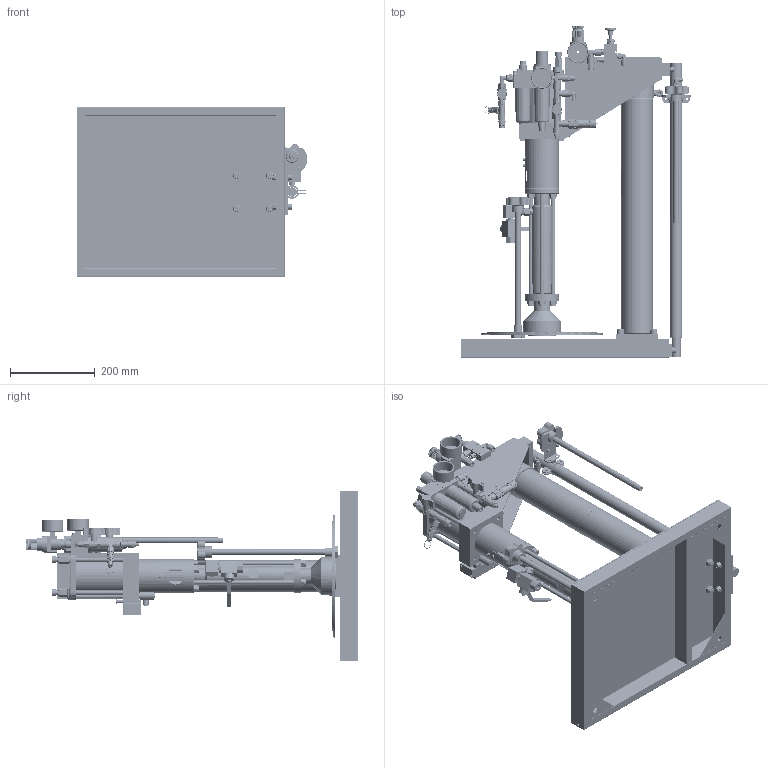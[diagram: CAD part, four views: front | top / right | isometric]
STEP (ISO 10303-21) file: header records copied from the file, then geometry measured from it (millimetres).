
FILE_DESCRIPTION (( 'STEP AP214' ), '1' );
FILE_NAME ('PP25-38-15.STEP', '2024-10-11T14:13:34', ( '' ), ( '' ), 'SwSTEP 2.0', 'SolidWorks 2024', '' );
FILE_SCHEMA (( 'AUTOMOTIVE_DESIGN' ));
Products named in the file (1): PP25-38-15
Bounding box: 543.5 x 782.5 x 400 mm (x, y, z)
Volume: 6206575.9 mm3; surface area: 2241781.1 mm2
Topology: 9 solids, 9 shells, 4356 faces, 11251 edges, 7305 vertices
Faces by surface type: plane 2603, cylinder 691, bspline 579, cone 437, torus 42, sphere 4
Full cylindrical faces by diameter (mm): 1.25 x2, 1.5 x1, 2 x2, 3 x1, 3.2 x4, 3.3 x2, 4 x4, 4.2 x9, 4.5 x10, 4.6 x1, 5 x9, 5.04 x1, 5.1 x2, 5.3 x1, 5.5 x12, 6 x18, 6.2 x2, 6.5 x4, 6.647 x2, 6.8 x3, 7 x17, 7.3 x2, 7.9 x1, 8 x19, 8.1 x1, 8.2 x3, 8.4 x1, 8.5 x28, 8.566 x5, 8.647 x7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
Entity records: 185991 total; most frequent: CARTESIAN_POINT 92632, ORIENTED_EDGE 20516, DIRECTION 15833, EDGE_CURVE 10258, VERTEX_POINT 7049, EDGE_LOOP 5683, AXIS2_PLACEMENT_3D 5394, LINE 5045
